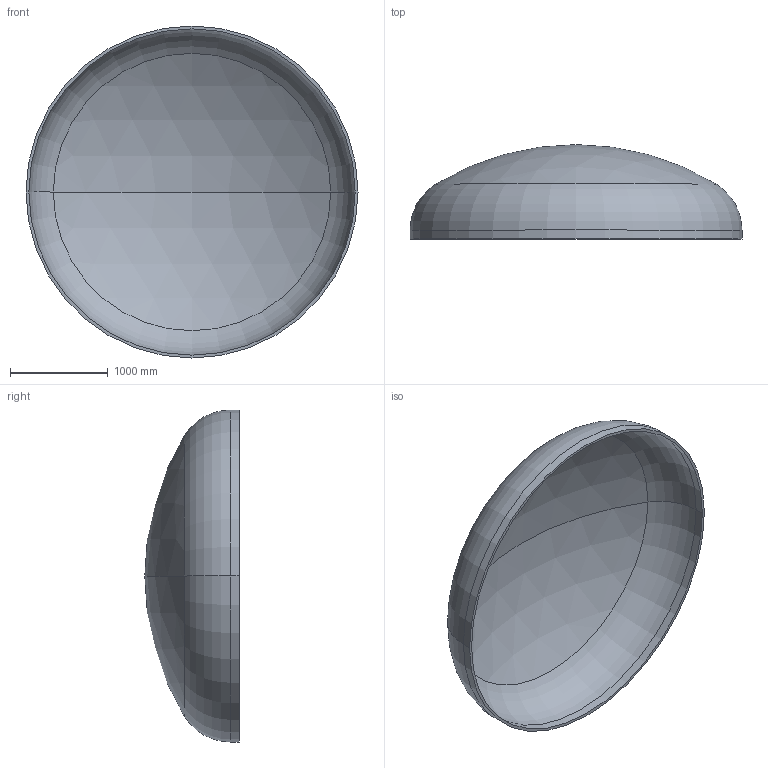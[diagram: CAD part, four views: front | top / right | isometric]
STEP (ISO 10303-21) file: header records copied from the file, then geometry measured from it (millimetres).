
FILE_DESCRIPTION (( 'STEP AP203' ), '1' );
FILE_NAME ('DIN 28013 Korbbogenform_-_Boden DIN 28013 - 3400 x 90 - I - s=29.step', '2016-07-01T19:22:01', ( '' ), ( '' ), 'SwSTEP 2.0', 'SolidWorks 2013', '' );
FILE_SCHEMA (( 'CONFIG_CONTROL_DESIGN' ));
Length unit declared in the file: millimetre
Products named in the file (1): DIN 28013 Korbbogenform_-_Boden DIN 28013 - 3400 x 90 - I - s=29
Bounding box: 3400 x 966.91 x 3400 mm (x, y, z)
Volume: 388403110.9 mm3; surface area: 27095291.7 mm2
Topology: 1 solids, 1 shells, 13 faces, 24 edges, 14 vertices
Faces by surface type: torus 4, cylinder 4, sphere 4, plane 1
Entity records: 407 total; most frequent: DIRECTION 72, CARTESIAN_POINT 52, ORIENTED_EDGE 48, AXIS2_PLACEMENT_3D 34, EDGE_CURVE 24, CIRCLE 20, VERTEX_POINT 14, EDGE_LOOP 14
